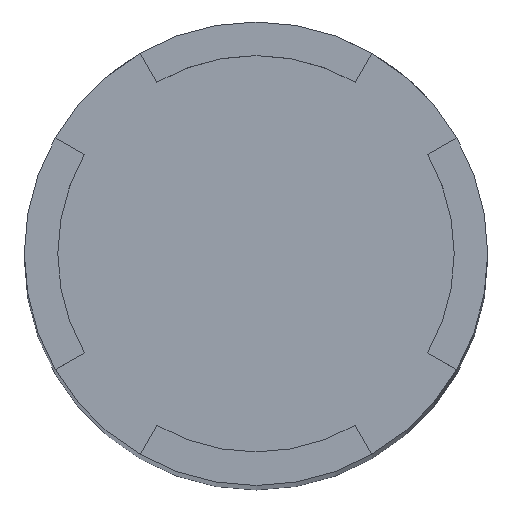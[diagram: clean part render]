
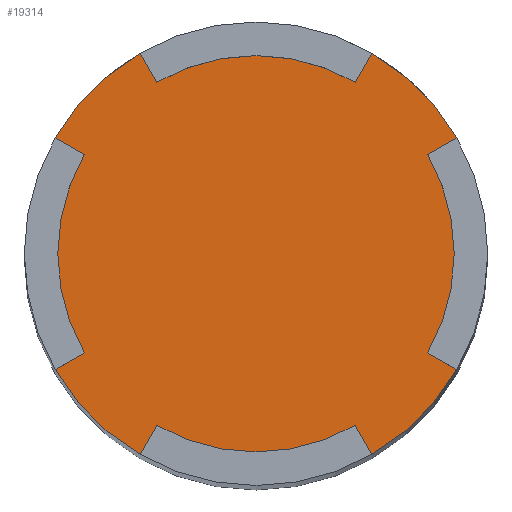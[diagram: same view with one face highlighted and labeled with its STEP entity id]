
A CAD part, top view. The second image highlights one B-rep face of the part: STEP entity #19314.
In plain terms, the highlighted planar face has unit normal (0, 0, 1).
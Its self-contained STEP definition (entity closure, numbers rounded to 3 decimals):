
#1992=CARTESIAN_POINT('',(0.,0.,83.));
#1993=DIRECTION('',(0.,0.,1.));
#1994=DIRECTION('',(0.866,0.5,0.));
#1995=AXIS2_PLACEMENT_3D('',#1992,#1993,#1994);
#2005=CARTESIAN_POINT('',(0.,0.,83.));
#2006=DIRECTION('',(0.,0.,1.));
#2007=DIRECTION('',(-0.5,0.866,0.));
#2008=AXIS2_PLACEMENT_3D('',#2005,#2006,#2007);
#5985=CARTESIAN_POINT('',(0.,0.,83.));
#5986=DIRECTION('',(0.,0.,1.));
#5987=DIRECTION('',(-0.866,-0.5,0.));
#5988=AXIS2_PLACEMENT_3D('',#5985,#5986,#5987);
#5998=CARTESIAN_POINT('',(0.,0.,83.));
#5999=DIRECTION('',(0.,0.,1.));
#6000=DIRECTION('',(0.5,-0.866,0.));
#6001=AXIS2_PLACEMENT_3D('',#5998,#5999,#6000);
#6084=CARTESIAN_POINT('',(0.,0.,83.));
#6085=DIRECTION('',(0.,0.,1.));
#6086=DIRECTION('',(0.866,-0.5,0.));
#6087=AXIS2_PLACEMENT_3D('',#6084,#6085,#6086);
#6089=CARTESIAN_POINT('',(0.,0.,83.));
#6090=DIRECTION('',(0.,0.,1.));
#6091=DIRECTION('',(-0.866,0.5,0.));
#6092=AXIS2_PLACEMENT_3D('',#6089,#6090,#6091);
#6103=DIRECTION('',(0.866,0.5,0.));
#6104=VECTOR('',#6103,2.172);
#6105=CARTESIAN_POINT('',(11.109,6.414,83.));
#6106=LINE('',#6105,#6104);
#6107=DIRECTION('',(-0.866,0.5,0.));
#6108=VECTOR('',#6107,2.172);
#6109=CARTESIAN_POINT('',(12.99,-7.5,83.));
#6110=LINE('',#6109,#6108);
#6111=DIRECTION('',(0.5,-0.866,0.));
#6112=VECTOR('',#6111,2.172);
#6113=CARTESIAN_POINT('',(6.414,-11.109,83.));
#6114=LINE('',#6113,#6112);
#6115=CARTESIAN_POINT('',(0.,0.,83.));
#6116=DIRECTION('',(0.,0.,1.));
#6117=DIRECTION('',(-0.5,-0.866,0.));
#6118=AXIS2_PLACEMENT_3D('',#6115,#6116,#6117);
#6120=DIRECTION('',(0.5,0.866,0.));
#6121=VECTOR('',#6120,2.172);
#6122=CARTESIAN_POINT('',(-7.5,-12.99,83.));
#6123=LINE('',#6122,#6121);
#6124=DIRECTION('',(-0.866,-0.5,0.));
#6125=VECTOR('',#6124,2.172);
#6126=CARTESIAN_POINT('',(-11.109,-6.414,83.));
#6127=LINE('',#6126,#6125);
#6128=DIRECTION('',(0.866,-0.5,0.));
#6129=VECTOR('',#6128,2.172);
#6130=CARTESIAN_POINT('',(-12.99,7.5,83.));
#6131=LINE('',#6130,#6129);
#6132=DIRECTION('',(-0.5,0.866,0.));
#6133=VECTOR('',#6132,2.172);
#6134=CARTESIAN_POINT('',(-6.414,11.109,83.));
#6135=LINE('',#6134,#6133);
#6136=CARTESIAN_POINT('',(0.,0.,83.));
#6137=DIRECTION('',(0.,0.,1.));
#6138=DIRECTION('',(0.5,0.866,0.));
#6139=AXIS2_PLACEMENT_3D('',#6136,#6137,#6138);
#6141=DIRECTION('',(-0.5,-0.866,0.));
#6142=VECTOR('',#6141,2.172);
#6143=CARTESIAN_POINT('',(7.5,12.99,83.));
#6144=LINE('',#6143,#6142);
#6173=CARTESIAN_POINT('',(12.99,7.5,83.));
#6174=CARTESIAN_POINT('',(7.5,12.99,83.));
#6175=VERTEX_POINT('',#6173);
#6176=VERTEX_POINT('',#6174);
#6177=CARTESIAN_POINT('',(-7.5,12.99,83.));
#6178=CARTESIAN_POINT('',(-12.99,7.5,83.));
#6179=VERTEX_POINT('',#6177);
#6180=VERTEX_POINT('',#6178);
#6189=CARTESIAN_POINT('',(-12.99,-7.5,83.));
#6190=CARTESIAN_POINT('',(-7.5,-12.99,83.));
#6191=VERTEX_POINT('',#6189);
#6192=VERTEX_POINT('',#6190);
#6193=CARTESIAN_POINT('',(7.5,-12.99,83.));
#6194=CARTESIAN_POINT('',(12.99,-7.5,83.));
#6195=VERTEX_POINT('',#6193);
#6196=VERTEX_POINT('',#6194);
#6217=CARTESIAN_POINT('',(-6.414,11.109,83.));
#6218=VERTEX_POINT('',#6217);
#6219=CARTESIAN_POINT('',(-11.109,6.414,83.));
#6221=VERTEX_POINT('',#6219);
#6223=CARTESIAN_POINT('',(11.109,6.414,83.));
#6225=VERTEX_POINT('',#6223);
#6227=CARTESIAN_POINT('',(6.414,11.109,83.));
#6228=VERTEX_POINT('',#6227);
#6229=CARTESIAN_POINT('',(-11.109,-6.414,83.));
#6231=VERTEX_POINT('',#6229);
#6233=CARTESIAN_POINT('',(-6.414,-11.109,83.));
#6234=VERTEX_POINT('',#6233);
#6235=CARTESIAN_POINT('',(6.414,-11.109,83.));
#6236=VERTEX_POINT('',#6235);
#6237=CARTESIAN_POINT('',(11.109,-6.414,83.));
#6239=VERTEX_POINT('',#6237);
#19284=CARTESIAN_POINT('',(0.,0.,83.));
#19285=DIRECTION('',(0.,0.,1.));
#19286=DIRECTION('',(1.,0.,0.));
#19287=AXIS2_PLACEMENT_3D('',#19284,#19285,#19286);
#19288=PLANE('',#19287);
#19290=ORIENTED_EDGE('',*,*,#19289,.F.);
#19291=ORIENTED_EDGE('',*,*,#19234,.F.);
#19293=ORIENTED_EDGE('',*,*,#19292,.F.);
#19294=ORIENTED_EDGE('',*,*,#19139,.F.);
#19296=ORIENTED_EDGE('',*,*,#19295,.F.);
#19297=ORIENTED_EDGE('',*,*,#19219,.F.);
#19298=ORIENTED_EDGE('',*,*,#19279,.F.);
#19299=ORIENTED_EDGE('',*,*,#19131,.F.);
#19301=ORIENTED_EDGE('',*,*,#19300,.F.);
#19302=ORIENTED_EDGE('',*,*,#19261,.F.);
#19304=ORIENTED_EDGE('',*,*,#19303,.F.);
#19305=ORIENTED_EDGE('',*,*,#7445,.F.);
#19307=ORIENTED_EDGE('',*,*,#19306,.F.);
#19308=ORIENTED_EDGE('',*,*,#19249,.F.);
#19310=ORIENTED_EDGE('',*,*,#19309,.F.);
#19311=ORIENTED_EDGE('',*,*,#7437,.F.);
#19312=EDGE_LOOP('',(#19290,#19291,#19293,#19294,#19296,#19297,#19298,#19299,
#19301,#19302,#19304,#19305,#19307,#19308,#19310,#19311));
#19313=FACE_OUTER_BOUND('',#19312,.F.);
#19314=ADVANCED_FACE('',(#19313),#19288,.T.);
#1996=CIRCLE('',#1995,15.);
#2009=CIRCLE('',#2008,15.);
#5989=CIRCLE('',#5988,15.);
#6002=CIRCLE('',#6001,15.);
#6088=CIRCLE('',#6087,12.828);
#6093=CIRCLE('',#6092,12.828);
#6119=CIRCLE('',#6118,12.828);
#6140=CIRCLE('',#6139,12.828);
#7437=EDGE_CURVE('',#6175,#6176,#1996,.T.);
#7445=EDGE_CURVE('',#6179,#6180,#2009,.T.);
#19131=EDGE_CURVE('',#6191,#6192,#5989,.T.);
#19139=EDGE_CURVE('',#6195,#6196,#6002,.T.);
#19219=EDGE_CURVE('',#6234,#6236,#6119,.T.);
#19234=EDGE_CURVE('',#6239,#6225,#6088,.T.);
#19249=EDGE_CURVE('',#6228,#6218,#6140,.T.);
#19261=EDGE_CURVE('',#6221,#6231,#6093,.T.);
#19279=EDGE_CURVE('',#6192,#6234,#6123,.T.);
#19289=EDGE_CURVE('',#6225,#6175,#6106,.T.);
#19292=EDGE_CURVE('',#6196,#6239,#6110,.T.);
#19295=EDGE_CURVE('',#6236,#6195,#6114,.T.);
#19300=EDGE_CURVE('',#6231,#6191,#6127,.T.);
#19303=EDGE_CURVE('',#6180,#6221,#6131,.T.);
#19306=EDGE_CURVE('',#6218,#6179,#6135,.T.);
#19309=EDGE_CURVE('',#6176,#6228,#6144,.T.);
